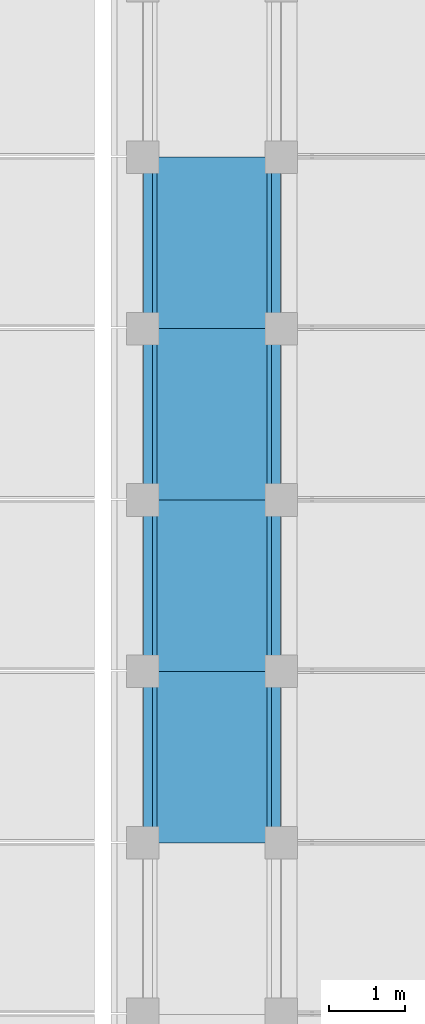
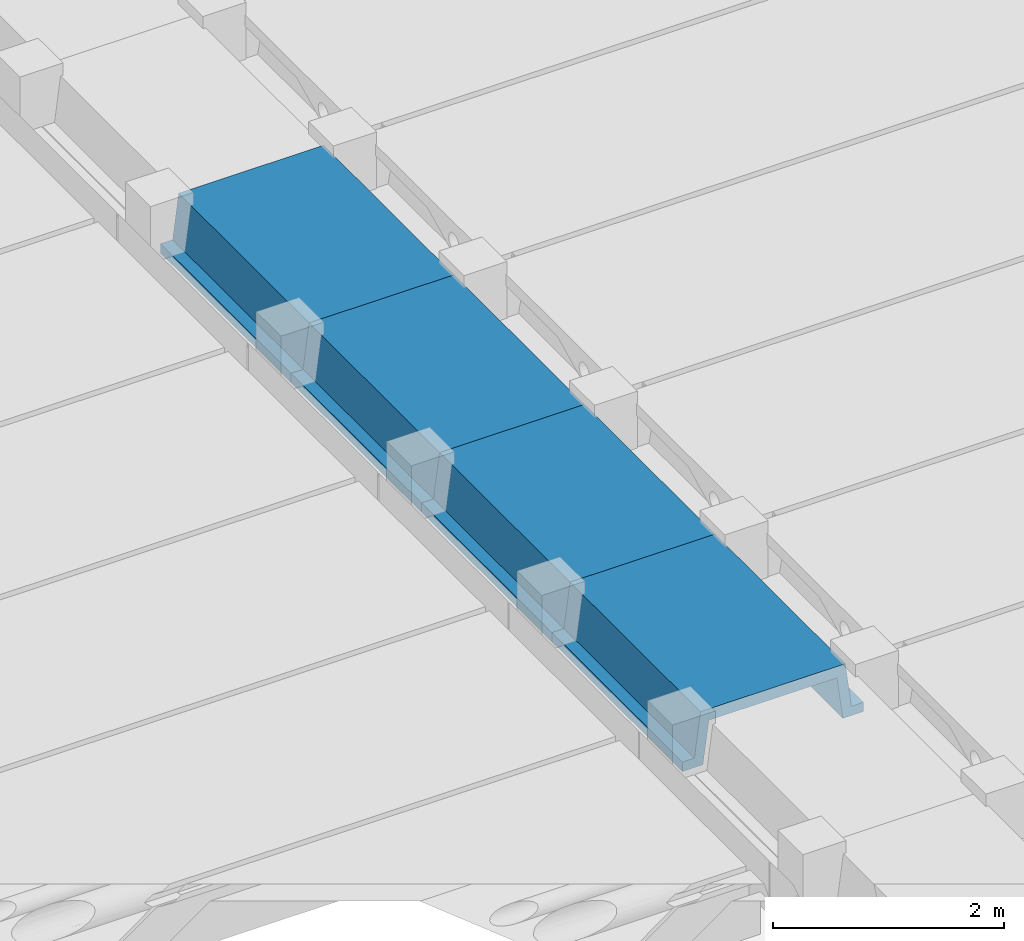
# One storey, part 8 of 25: 4 beams.
"""IFC2X3 building model written with IfcOpenShell, lengths in millimetres."""

from ifc_helpers import new_model, entity, si_unit, converted_unit, derived_unit, direction, frame, origin, place, context, subcontext, project, spatial, polyline, outline, extrude, material, type_object, element, save


model = new_model("IFC2X3")

# Units and contexts
model_context = context("Model", 3, precision=0.01, world=origin(), true_north=direction((6.12303176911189e-17, 1.0)))
body_context = subcontext(model_context, "Body", "Model", "MODEL_VIEW")
ifc_project = project(units=[si_unit("LENGTHUNIT", "METRE", prefix="MILLI"), si_unit("AREAUNIT", "SQUARE_METRE"), si_unit("VOLUMEUNIT", "CUBIC_METRE"), converted_unit("PLANEANGLEUNIT", "DEGREE", entity("IfcRatioMeasure", 0.0174532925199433), si_unit("PLANEANGLEUNIT", "RADIAN"), dimensions=[0, 0, 0, 0, 0, 0, 0]), si_unit("MASSUNIT", "GRAM", prefix="KILO"), derived_unit("MASSDENSITYUNIT", [(si_unit("MASSUNIT", "GRAM", prefix="KILO"), 1), (si_unit("LENGTHUNIT", "METRE"), -3)]), derived_unit("MOMENTOFINERTIAUNIT", [(si_unit("LENGTHUNIT", "METRE"), 4)]), si_unit("TIMEUNIT", "SECOND"), si_unit("FREQUENCYUNIT", "HERTZ"), si_unit("THERMODYNAMICTEMPERATUREUNIT", "DEGREE_CELSIUS"), derived_unit("THERMALTRANSMITTANCEUNIT", [(si_unit("MASSUNIT", "GRAM", prefix="KILO"), 1), (si_unit("THERMODYNAMICTEMPERATUREUNIT", "KELVIN"), -1), (si_unit("TIMEUNIT", "SECOND"), -3)]), derived_unit("VOLUMETRICFLOWRATEUNIT", [(si_unit("LENGTHUNIT", "METRE"), 3), (si_unit("TIMEUNIT", "SECOND"), -1)]), si_unit("ELECTRICCURRENTUNIT", "AMPERE"), si_unit("ELECTRICVOLTAGEUNIT", "VOLT"), si_unit("POWERUNIT", "WATT"), si_unit("FORCEUNIT", "NEWTON", prefix="KILO"), si_unit("ILLUMINANCEUNIT", "LUX"), si_unit("LUMINOUSFLUXUNIT", "LUMEN"), si_unit("LUMINOUSINTENSITYUNIT", "CANDELA"), derived_unit("USERDEFINED", [(si_unit("MASSUNIT", "GRAM", prefix="KILO"), -1), (si_unit("LENGTHUNIT", "METRE"), -2), (si_unit("TIMEUNIT", "SECOND"), 3), (si_unit("LUMINOUSFLUXUNIT", "LUMEN"), 1)]), derived_unit("LINEARVELOCITYUNIT", [(si_unit("LENGTHUNIT", "METRE"), 1), (si_unit("TIMEUNIT", "SECOND"), -1)]), si_unit("PRESSUREUNIT", "PASCAL"), derived_unit("USERDEFINED", [(si_unit("LENGTHUNIT", "METRE"), -2), (si_unit("MASSUNIT", "GRAM", prefix="KILO"), 1), (si_unit("TIMEUNIT", "SECOND"), -2)]), derived_unit("LINEARFORCEUNIT", [(si_unit("MASSUNIT", "GRAM", prefix="KILO"), 1), (si_unit("LENGTHUNIT", "METRE"), 1), (si_unit("TIMEUNIT", "SECOND"), -2), (si_unit("LENGTHUNIT", "METRE"), -1)]), derived_unit("PLANARFORCEUNIT", [(si_unit("MASSUNIT", "GRAM", prefix="KILO"), 1), (si_unit("LENGTHUNIT", "METRE"), 1), (si_unit("TIMEUNIT", "SECOND"), -2), (si_unit("LENGTHUNIT", "METRE"), -2)])], contexts=[model_context])

# Site, building, storey
site_placement = place(None, frame((10627.5135316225, 21939.0796949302, 0.0)))
site = spatial("IfcSite", under=ifc_project, at=site_placement, Name="Default", CompositionType="ELEMENT")
building_placement = place(site_placement, origin())
building = spatial("IfcBuilding", under=site, at=building_placement, CompositionType="ELEMENT")
storey_placement = place(building_placement, origin())
storey = spatial("IfcBuildingStorey", under=building, at=storey_placement, Name="RDC", CompositionType="ELEMENT", Elevation=0.0)

# Beams
ifc_material = material(Name="Concrete, Precast Smooth, Light Grey")
beam_type = type_object("IfcBeamType", Name="Poutre petite:Poutre petite", PredefinedType="NOTDEFINED")
for number, where, z_axis, x_axis, name in (
    (1, (667.48646837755, 660.920305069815, 3530.0), (0.0, 0.0, 1.0), (0.0, 1.0, 0.0), "Poutre petite:Poutre petite"),
    (2, (667.48646837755, -1599.07969493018, 3530.0), (0.0, 0.0, 1.0), (0.0, 1.0, 0.0), "Poutre petite:Poutre petite"),
    (3, (667.48646837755, -3859.07969493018, 3530.0), (0.0, 0.0, 1.0), (0.0, 1.0, 0.0), "Poutre petite:Poutre petite"),
    (4, (667.48646837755, -6119.07969493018, 3530.0), (0.0, 0.0, 1.0), (0.0, 1.0, 0.0), "Poutre petite:Poutre petite"),
):
    element("IfcBeam", number, at=place(storey_placement, frame(where, z_axis=z_axis, x_axis=x_axis)), inside=storey, type_object=beam_type, material=ifc_material, Name=name, ObjectType="Poutre petite:Poutre petite", context=body_context, shape_type="SweptSolid", body=[
        extrude(outline(polyline([(103.333217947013, -905.013684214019), (203.333564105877, -905.013684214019), (203.333564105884, -700.013730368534), (-246.666782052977, -640.013684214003), (-246.666782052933, 640.013497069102), (203.333564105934, 700.013543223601), (203.333564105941, 905.014058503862), (103.333217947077, 905.014058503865), (103.333217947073, 785.01349706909), (-366.666782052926, 725.013497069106), (-366.666782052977, -725.013684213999), (103.333217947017, -785.013684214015), (103.333217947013, -905.013684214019)])), frame((0.0, -0.000187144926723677, -366.666782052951), z_axis=(1.0, 0.0, 0.0), x_axis=(0.0, 0.0, -1.0)), (0.0, 0.0, 1.0), 2260.0),
    ])

save(model, "model.ifc")
